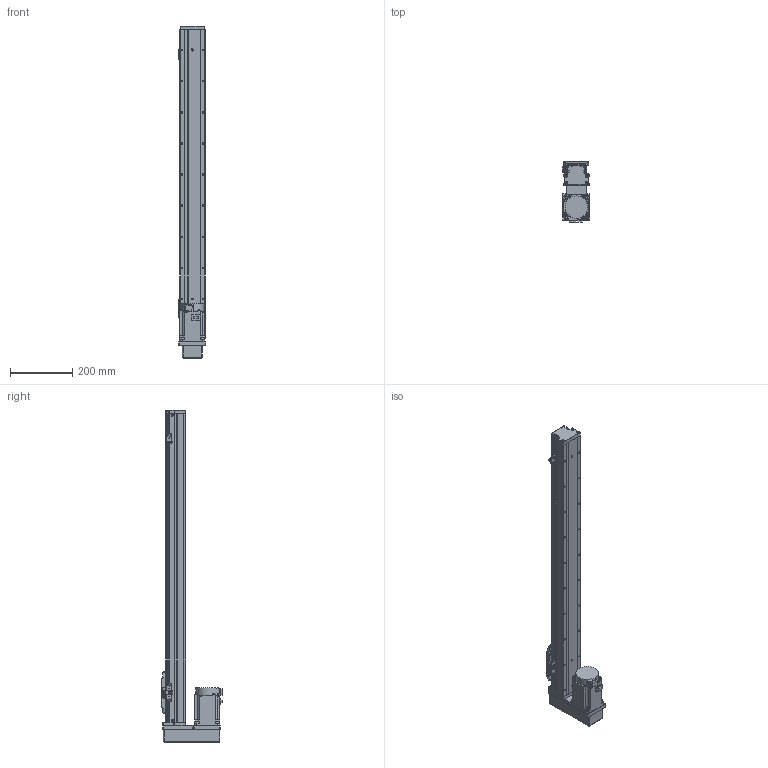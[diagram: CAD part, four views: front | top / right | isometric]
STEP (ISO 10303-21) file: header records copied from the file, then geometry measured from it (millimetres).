
FILE_DESCRIPTION (( 'STEP AP203' ), '1' );
FILE_NAME ('GTH8-800-BM-M75-C4.step', '2023-02-14T02:29:56', ( '微软用户' ), ( '微软中国' ), 'SwSTEP 2.0', 'SolidWorks 2020', '' );
FILE_SCHEMA (( 'CONFIG_CONTROL_DESIGN' ));
Length unit declared in the file: millimetre
Products named in the file (18): GTH80-022; BTH-M3X5X6; GTH80-001_800; GBT 70.1-M3℅6; CTHA86-015-3_CTHA86-015-4; GTH80-003; GBT 70.1-M4×16; CTHA86-035; GTH80-004; GTH80-028; hg-kn73j_-s100; GTH80-006; GTH50-024; GTH8-800-BM-M75-C4; GTH80-013; GTH50-023; GBT 70.3-M3℅6; GBT96.1-2002 3×0.8
Assembly tree (57 placements, depth 2):
  GTH8-800-BM-M75-C4
    GTH80-001_800
    GTH80-003
    GTH80-004
    GTH80-006
    GTH80-013
    GBT 70.3-M3℅6  x4
    GTH80-022
    GBT 70.1-M3℅6  x14
    GBT 70.1-M4×16  x8
    GTH80-028  x2
    GTH50-024  x3
    GTH50-023  x3
    GBT96.1-2002 3×0.8  x6
    BTH-M3X5X6  x8
    CTHA86-015-3_CTHA86-015-4
    CTHA86-035
    hg-kn73j_-s100
Bounding box: 89.4 x 195.3 x 1066 mm (x, y, z)
Volume: 5831835.9 mm3; surface area: 572480 mm2
Topology: 59 solids, 59 shells, 2203 faces, 5118 edges, 3136 vertices
Faces by surface type: plane 1153, cylinder 635, cone 243, torus 158, sphere 12, bspline 2
Entity records: 39884 total; most frequent: CARTESIAN_POINT 6695, DIRECTION 6585, ORIENTED_EDGE 6046, EDGE_CURVE 3023, AXIS2_PLACEMENT_3D 2326, LINE 1933, VECTOR 1933, VERTEX_POINT 1911
